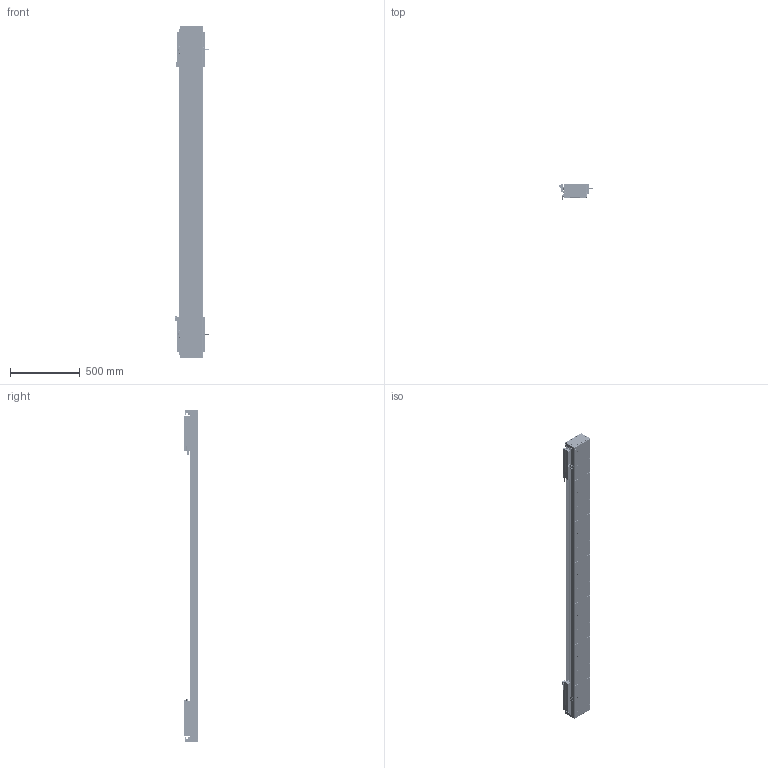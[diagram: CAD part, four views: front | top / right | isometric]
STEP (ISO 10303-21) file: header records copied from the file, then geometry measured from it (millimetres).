
FILE_DESCRIPTION (( 'STEP AP203' ), '1' );
FILE_NAME ('DA-C165-2-C3-T1760-C010-0.2 直线电机.STEP', '2023-06-13T09:21:51', ( '微软用户' ), ( '微软中国' ), 'SwSTEP 2.0', 'SolidWorks 2019', '' );
FILE_SCHEMA (( 'CONFIG_CONTROL_DESIGN' ));
Length unit declared in the file: millimetre
Products named in the file (22): 葩璃 PM-Y45^DA-C165-C3-T-C010-0.2-N 眻盄萇儂; 复件 DA165-GDLK-00 钢带拉块^复件 CU165钢带组件_DA-C165-C3-T-C010-0.2-N 直线电机; 复件 DA165-GD-DG-H-00 端盖^复件 CU165钢带组件_DA-C165-C3-T-C010-0.2-N 直线电机; 葩璃 DA95-GT-T-00^IU-CU165-L 菁釱絳寢_T; 复件 DA95-HXJ-00 缓冲橡胶^DA-C165-C3-T-C010-0.2-N 直线电机; DA-C165-2-C3-T1760-C010-0.2 眻盄萇儂; 葩璃 PM-T45^DA-C165-C3-T-C010-0.2-N 眻盄萇儂; 葩璃 CKM03-W075-C1C2-TP-3.0^DA-C165-C3-T-C010-0.2-N 眻盄萇儂; 复件 DMA-010-0.2 读数头^DA-C165-C3-T-C010-0.2-N 直线电机; 复件 DA126-GYP-ZJ-00 中间光电感应片^DA-C165-C3-T-C010-0.2-N 直线电机; 珨极趙賑雄怢啣C3-wf; 复件 66338-1000-006-00 光电感应块^DA-C165-C3-T-C010-0.2-N 直线电机; 复件 六角薄螺母 M3^DA-C165-C3-T-C010-0.2-N 直线电机_GB_FASTENER_NUT_STNAB M3-C; 葩璃 CKM01-W075-TRL^DA-C165-C3-T-C010-0.2-N 眻盄萇儂; 复件 CU165钢带组件^DA-C165-C3-T-C010-0.2-N 直线电机; 复件 DKW-HXJ-JY-00 缓冲橡胶^DA-C165-C3-T-C010-0.2-N 直线电机; 复件 DA165-GD-1860-002-00 钢带盖板^复件 CU165钢带组件_DA-C165-C3-T-C010-0.2-N 直线电机; IU-CU165-L 菁釱絳寢; 复件 DA165-GDYK-00 钢带压块^复件 CU165钢带组件_DA-C165-C3-T-C010-0.2-N 直线电机; 复件 XD-U-02L 磁栅尺^DA-C165-C3-T-C010-0.2-N 直线电机_T; 复件 DA165-GYP-00 光电感应片^DA-C165-C3-T-C010-0.2-N 直线电机; 复件 CU165 底座^IU-CU165-L 底座导轨_L2340
Assembly tree (45 placements, depth 3):
  DA-C165-2-C3-T1760-C010-0.2 眻盄萇儂
    IU-CU165-L 菁釱絳寢
      复件 CU165 底座^IU-CU165-L 底座导轨_L2340
      葩璃 DA95-GT-T-00^IU-CU165-L 菁釱絳寢_T  x4
    复件 XD-U-02L 磁栅尺^DA-C165-C3-T-C010-0.2-N 直线电机_T
    葩璃 PM-T45^DA-C165-C3-T-C010-0.2-N 眻盄萇儂  x4
    葩璃 CKM01-W075-TRL^DA-C165-C3-T-C010-0.2-N 眻盄萇儂
    复件 CU165钢带组件^DA-C165-C3-T-C010-0.2-N 直线电机
      复件 DA165-GD-DG-H-00 端盖^复件 CU165钢带组件_DA-C165-C3-T-C010-0.2-N 直线电机  x2
      复件 DA165-GDYK-00 钢带压块^复件 CU165钢带组件_DA-C165-C3-T-C010-0.2-N 直线电机  x2
      复件 DA165-GD-1860-002-00 钢带盖板^复件 CU165钢带组件_DA-C165-C3-T-C010-0.2-N 直线电机
      复件 DA165-GDLK-00 钢带拉块^复件 CU165钢带组件_DA-C165-C3-T-C010-0.2-N 直线电机  x2
    复件 DA95-HXJ-00 缓冲橡胶^DA-C165-C3-T-C010-0.2-N 直线电机  x4
    复件 DMA-010-0.2 读数头^DA-C165-C3-T-C010-0.2-N 直线电机  x2
    复件 DA165-GYP-00 光电感应片^DA-C165-C3-T-C010-0.2-N 直线电机  x2
    复件 66338-1000-006-00 光电感应块^DA-C165-C3-T-C010-0.2-N 直线电机
    葩璃 PM-Y45^DA-C165-C3-T-C010-0.2-N 眻盄萇儂
    复件 DA126-GYP-ZJ-00 中间光电感应片^DA-C165-C3-T-C010-0.2-N 直线电机
    葩璃 CKM03-W075-C1C2-TP-3.0^DA-C165-C3-T-C010-0.2-N 眻盄萇儂  x2
    复件 DKW-HXJ-JY-00 缓冲橡胶^DA-C165-C3-T-C010-0.2-N 直线电机  x2
    复件 六角薄螺母 M3^DA-C165-C3-T-C010-0.2-N 直线电机_GB_FASTENER_NUT_STNAB M3-C  x8
    珨极趙賑雄怢啣C3-wf  x2
Bounding box: 247.2 x 111.45 x 2380 mm (x, y, z)
Volume: 16085213.4 mm3; surface area: 4486076.7 mm2
Topology: 121 solids, 221 shells, 6445 faces, 17482 edges, 10860 vertices
Faces by surface type: cylinder 3366, plane 2011, cone 980, torus 80, sphere 8
Entity records: 142700 total; most frequent: CARTESIAN_POINT 37499, ORIENTED_EDGE 21548, DIRECTION 21266, EDGE_CURVE 10774, AXIS2_PLACEMENT_3D 8107, VERTEX_POINT 7014, LINE 5052, VECTOR 5052
